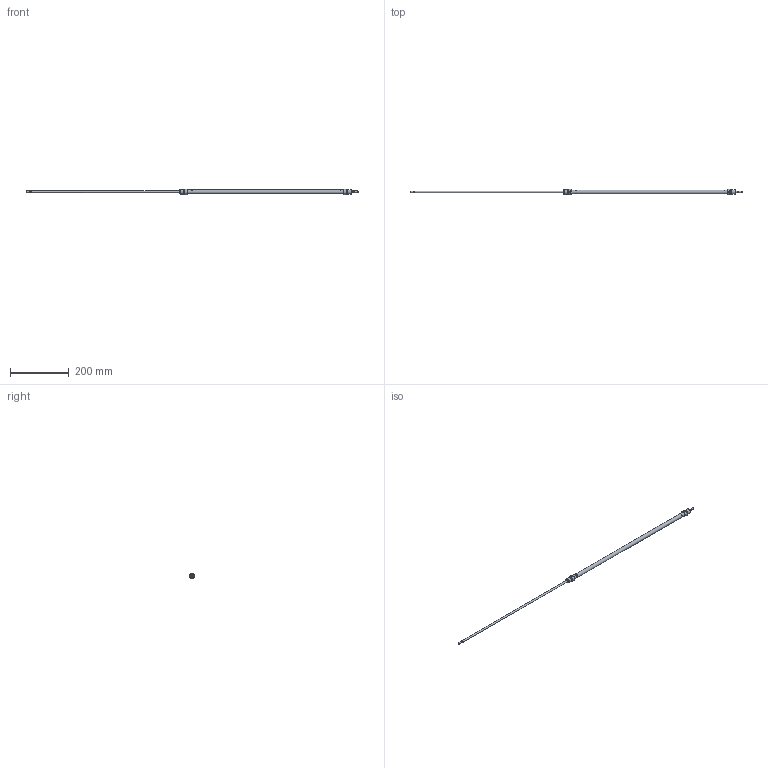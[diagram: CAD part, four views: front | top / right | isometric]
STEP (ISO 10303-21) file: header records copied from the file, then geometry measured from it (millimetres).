
FILE_DESCRIPTION( ( 'STEP AP203' ), '1' );
FILE_NAME( '//expscmdclustefs.cadenas.external/client_exchange/iodir/jobs/output/wkb68411330_no0/STEP/M101-012-0500-M__0__2_03.stp', ' ', ( ' ' ), ( ' ' ), 'PSStep 15.0.47', 'PARTsolutions', ' ' );
FILE_SCHEMA( ( 'CONFIG_CONTROL_DESIGN' ) );
Length unit declared in the file: millimetre
Products named in the file (3): M101-012-0500-M [0]; HI_M101-012-0500-M-[0]-z; HI_M101-012-0500-M-[0]-k
Assembly tree (2 placements, depth 2):
  M101-012-0500-M [0]
    HI_M101-012-0500-M-[0]-z
    HI_M101-012-0500-M-[0]-k
Bounding box: 1126 x 18.73 x 17.86 mm (x, y, z)
Volume: 58325.3 mm3; surface area: 68170.5 mm2
Topology: 2 solids, 2 shells, 65 faces, 129 edges, 80 vertices
Faces by surface type: plane 26, cylinder 23, cone 14, torus 2
Full cylindrical faces by diameter (mm): 4.134 x2, 4.773 x2, 6 x6, 12 x2, 13.3 x1, 14.16 x4, 16 x4
Entity records: 1670 total; most frequent: CARTESIAN_POINT 324, DIRECTION 280, ORIENTED_EDGE 184, AXIS2_PLACEMENT_3D 128, EDGE_LOOP 116, EDGE_CURVE 92, FACE_OUTER_BOUND 88, VERTEX_POINT 76
